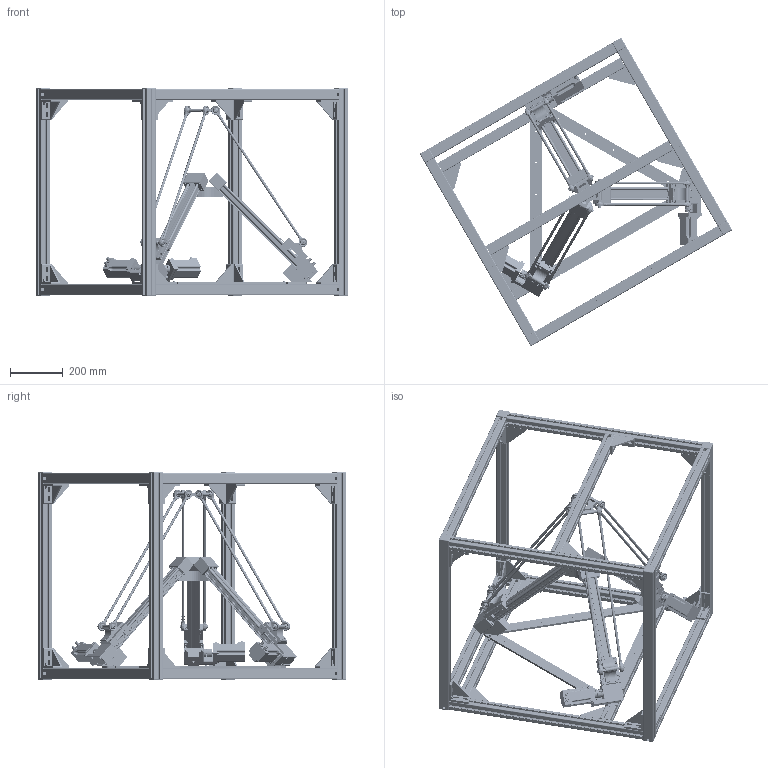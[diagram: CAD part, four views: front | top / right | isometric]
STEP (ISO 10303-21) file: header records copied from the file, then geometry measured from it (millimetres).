
FILE_DESCRIPTION(/* description */ (''),/* implementation_level */ '2;1');
FILE_NAME(/* name */ 'I:\Gleitlager\Konstruktion\SERIE NEU (im Aufbau!!)\drylin E\Deltaroboter\Modelle\DLE-DR-0053\DLE-DR-0053.stp',/* time_stamp */ '2019-04-16T10:42:40+02:00',/* author */ ('fkoeching'),/* organization */ (''),/* preprocessor_version */ 'ST-DEVELOPER v17',/* originating_system */ 'Autodesk Inventor 2018',/* authorisation */ '');
FILE_SCHEMA (('AUTOMOTIVE_DESIGN { 1 0 10303 214 3 1 1 }'));
Products named in the file (75): DLE-DR-0051; ETY-DR-0023; ETY-DR-0013; DLE-DR-ZLW-0004; ZSX-104001; ZTL-104002; SAXT-104001; ZTL-10400S-V; SAWT-104002; NOR-10412; ZR-104001; ZR-104001-XX; ZSY-104002; NOR-10703; ZTF-104004; SAXT-104004; SAXT-104002; NOR-10614; ZTF-10400S-V; SAWT-104001; ZTY-104035; NOR-20901; JTEM-10; ZTZ-104009; NOR-10604; ZSA-104001-AL; ZSY-104001; WJ200UMA-01-10-AL; WMA-01-10-AL; WRZ-011007; J200UMA-01-10; NOR-10601; MK-0111-BG-5; MF-1040-NEMA23-S; ZTY-104004; ZTY-104010; NOR-10517; MH-06; NOR-10523; NOR-20114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
Assembly tree (282 placements, depth 5):
  DLE-DR-0051
    ETY-DR-0023
    ETY-DR-0013  x3
    DLE-DR-ZLW-0004  x3
      ZSX-104001
      ZTL-104002
        SAXT-104001
        SAXT-104002
        NOR-10614  x2
        ZTL-10400S-V
          SAWT-104002
          NOR-10412  x4
          NOR-10604  x4
          JTEM-10  x4
          NOR-20901  x2
          ZTY-104035  x2
        ZTZ-104009  x2
      ZR-104001
        ZR-104001-XX
        NOR-10703  x2
        ZSY-104002  x2
      ZTF-104004
        SAXT-104004
        SAXT-104002
        NOR-10614  x2
        ZTF-10400S-V
          JTEM-10  x4
          SAWT-104001
          ZTY-104035  x2
          NOR-20901  x2
        ZTZ-104009  x2
        NOR-10604  x2
      ZSA-104001-AL
        ZSY-104001
        WJ200UMA-01-10-AL  x4
          WMA-01-10-AL
          WRZ-011007
          J200UMA-01-10
        NOR-10601  x4
      MK-0111-BG-5
        MF-1040-NEMA23-S
          ZTY-104004
          ZTY-104010
          NOR-10517  x2
          MH-06  x2
          NOR-10523  x4
          NOR-20114  x4
          NOR-11003  x4
        MOT-AN-S-060-035-060-M-C-AAAC
          1
          2
        COU-AR-K-080-100-32-32-B-AAAA
    ETY-DR-0011
    ZWY-104001  x3
    ETY-DR-0021  x3
    ETY-DR-0022
    KDGM-DR-12-A-ER-J-600  x6
      RDGM-12X0.75-3000-ES
      /D/KARM-12-CL-KDGM
      ETY-DR-0024
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Bounding box: 1179.89 x 1165.25 x 788 mm (x, y, z)
Volume: 12729736.2 mm3; surface area: 8874334.6 mm2
Topology: 453 solids, 453 shells, 19980 faces, 53828 edges, 35403 vertices
Faces by surface type: plane 11584, cylinder 5129, bspline 1152, cone 1151, torus 722, sphere 242
Full cylindrical faces by diameter (mm): 1.8 x27, 2.5 x15, 3 x4, 3.2 x3, 3.242 x18, 3.5 x4, 4 x72, 4.018 x12, 4.134 x78, 4.2 x10, 4.3 x12, 4.5 x24, 4.917 x66, 5 x160, 5.3 x4, 5.4 x3, 5.5 x64, 5.96 x12, 6 x104, 6.2 x24, 6.6 x42, 6.647 x6, 7 x30, 7.2 x12, 7.4 x6, 8 x45, 8.05 x3, 8.2 x6, 8.5 x40, 9 x12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
Entity records: 124787 total; most frequent: CARTESIAN_POINT 31585, DIRECTION 18979, ORIENTED_EDGE 18586, EDGE_CURVE 9293, AXIS2_PLACEMENT_3D 6755, VERTEX_POINT 6181, LINE 5469, VECTOR 5469
